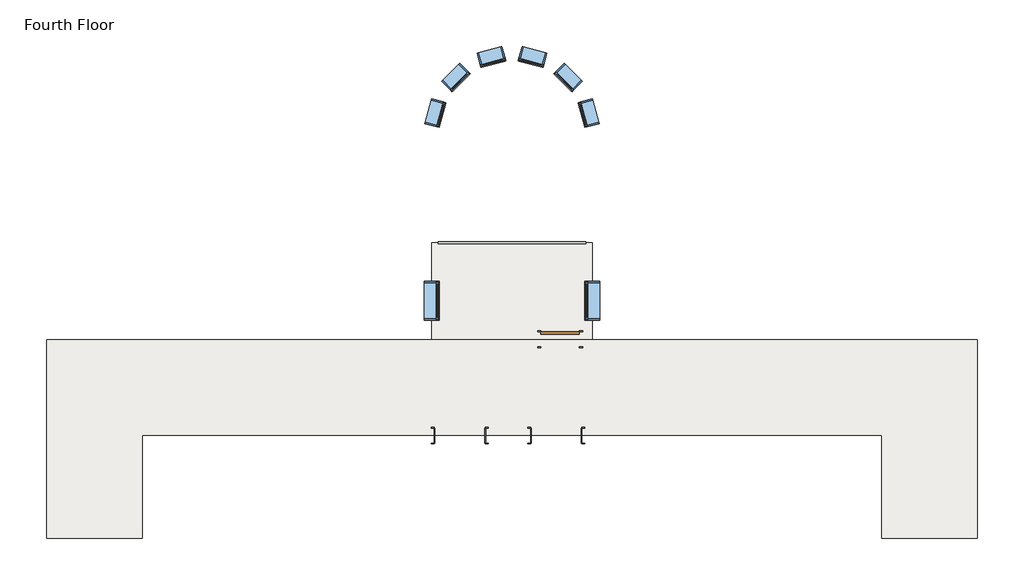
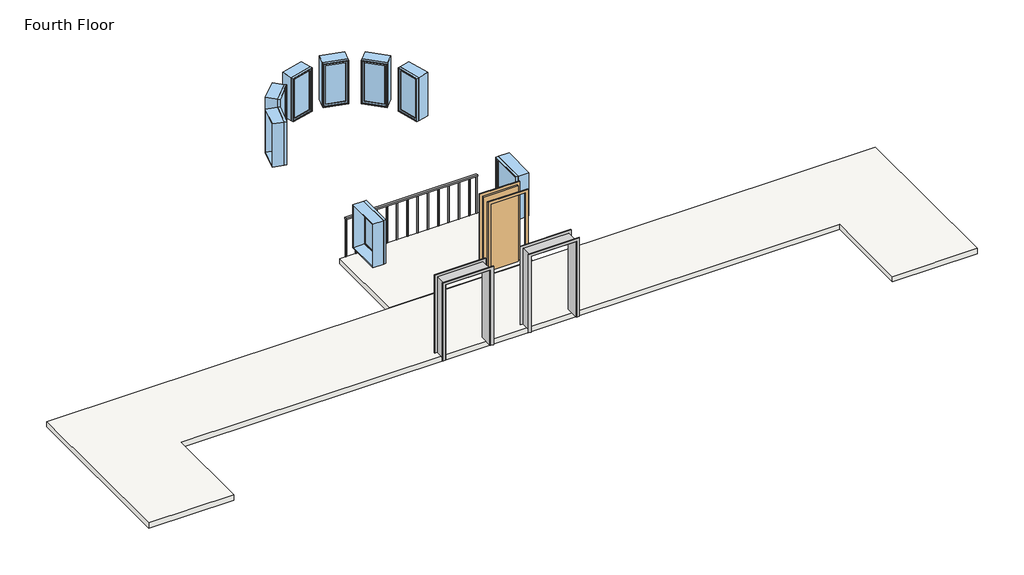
# One storey: 8 windows, 2 proxies, 2 slabs, 1 door, 1 railing.
"""IFC4 building model written with IfcOpenShell, lengths in millimetres."""

from ifc_helpers import new_model, si_unit, frame, origin, place, context, project, spatial, polyline, outline, extrude, transform, mapped, element, save
from components import m_passage_opening_cased_1220_x_2134mm_f04423fa, m_single_flush_0915_x_2134mm_1eac8bb1, m_fixed_0610_x_1220mm_2c28ef1d, m_fixed_0610_x_1220mm_1ea27827, m_fixed_0915_x_1220mm_bde29121

model = new_model("IFC4")

# Units and contexts
model_context = context("Model", 3, world=origin())
ifc_project = project(units=[si_unit("LENGTHUNIT", "METRE", prefix="MILLI")], contexts=[model_context])

# Site, building, storey
site = spatial("IfcSite", under=ifc_project)
building = spatial("IfcBuilding", under=site)
storey = spatial("IfcBuildingStorey", under=building, Name="Fourth Floor", Elevation=9144.0)

# Proxies
placement = place(None, origin())
m_passage_opening_cased_1220_x_2134mm_shape = m_passage_opening_cased_1220_x_2134mm_f04423fa(model_context)
element("IfcBuildingElementProxy", 1, Name="M_Passage Opening-Cased : 1220 x 2134mm", ObjectType="M_Passage Opening-Cased : 1220 x 2134mm", at=placement, inside=storey, context=model_context, shape_type="MappedRepresentation", body=[
    mapped(m_passage_opening_cased_1220_x_2134mm_shape, transform((3529.9038, -3050.7443399, 9144.0), x_axis=(-1.0, 0.0, 0.0), y_axis=(0.0, -1.0, 0.0), z_axis=(0.0, 0.0, 1.0))),
])
element("IfcBuildingElementProxy", 2, Name="M_Passage Opening-Cased : 1220 x 2134mm", ObjectType="M_Passage Opening-Cased : 1220 x 2134mm", at=placement, inside=storey, context=model_context, shape_type="MappedRepresentation", body=[
    mapped(m_passage_opening_cased_1220_x_2134mm_shape, transform((1260.2811134, -3050.7443399, 9144.0), x_axis=(1.0, 0.0, 0.0), y_axis=(0.0, 1.0, 0.0), z_axis=(0.0, 0.0, 1.0))),
])

# Door
m_single_flush_0915_x_2134mm_shape = m_single_flush_0915_x_2134mm_1eac8bb1(model_context)
element("IfcDoor", 3, ObjectType="M_Single-Flush : 0915 x 2134mm", at=placement, inside=storey, context=model_context, shape_type="MappedRepresentation", body=[
    mapped(m_single_flush_0915_x_2134mm_shape, transform((3632.0924567, -764.7443399, 9144.0), x_axis=(1.0, 0.0, 0.0), y_axis=(0.0, 1.0, 0.0), z_axis=(0.0, 0.0, 1.0))),
])

# Railing
element("IfcRailing", 4, ObjectType="1100mm", at=placement, inside=storey, context=model_context, shape_type="SweptSolid", body=[
    extrude(outline(polyline([(737.0924567, 1496.2556601), (737.0924567, 1546.2556601), (4241.0924567, 1546.2556601), (4241.0924567, 1496.2556601), (737.0924567, 1496.2556601)])), frame((0.0, 0.0, 10194.0), z_axis=(0.0, 0.0, 1.0), x_axis=(1.0, 0.0, 0.0)), (0.0, 0.0, 1.0), 50.0),
    extrude(outline(polyline([(4024.5924567, 1508.7556601), (4024.5924567, 1533.7556601), (4049.5924567, 1533.7556601), (4049.5924567, 1508.7556601), (4024.5924567, 1508.7556601)])), frame((0.0, 0.0, 9144.0), z_axis=(0.0, 0.0, 1.0), x_axis=(1.0, 0.0, 0.0)), (0.0, 0.0, 1.0), 1050.0),
    extrude(outline(polyline([(3749.5924567, 1508.7556601), (3749.5924567, 1533.7556601), (3774.5924567, 1533.7556601), (3774.5924567, 1508.7556601), (3749.5924567, 1508.7556601)])), frame((0.0, 0.0, 9144.0), z_axis=(0.0, 0.0, 1.0), x_axis=(1.0, 0.0, 0.0)), (0.0, 0.0, 1.0), 1050.0),
    extrude(outline(polyline([(3474.5924567, 1508.7556601), (3474.5924567, 1533.7556601), (3499.5924567, 1533.7556601), (3499.5924567, 1508.7556601), (3474.5924567, 1508.7556601)])), frame((0.0, 0.0, 9144.0), z_axis=(0.0, 0.0, 1.0), x_axis=(1.0, 0.0, 0.0)), (0.0, 0.0, 1.0), 1050.0),
    extrude(outline(polyline([(3199.5924567, 1508.7556601), (3199.5924567, 1533.7556601), (3224.5924567, 1533.7556601), (3224.5924567, 1508.7556601), (3199.5924567, 1508.7556601)])), frame((0.0, 0.0, 9144.0), z_axis=(0.0, 0.0, 1.0), x_axis=(1.0, 0.0, 0.0)), (0.0, 0.0, 1.0), 1050.0),
    extrude(outline(polyline([(2924.5924567, 1508.7556601), (2924.5924567, 1533.7556601), (2949.5924567, 1533.7556601), (2949.5924567, 1508.7556601), (2924.5924567, 1508.7556601)])), frame((0.0, 0.0, 9144.0), z_axis=(0.0, 0.0, 1.0), x_axis=(1.0, 0.0, 0.0)), (0.0, 0.0, 1.0), 1050.0),
    extrude(outline(polyline([(2649.5924567, 1508.7556601), (2649.5924567, 1533.7556601), (2674.5924567, 1533.7556601), (2674.5924567, 1508.7556601), (2649.5924567, 1508.7556601)])), frame((0.0, 0.0, 9144.0), z_axis=(0.0, 0.0, 1.0), x_axis=(1.0, 0.0, 0.0)), (0.0, 0.0, 1.0), 1050.0),
    extrude(outline(polyline([(2374.5924567, 1508.7556601), (2374.5924567, 1533.7556601), (2399.5924567, 1533.7556601), (2399.5924567, 1508.7556601), (2374.5924567, 1508.7556601)])), frame((0.0, 0.0, 9144.0), z_axis=(0.0, 0.0, 1.0), x_axis=(1.0, 0.0, 0.0)), (0.0, 0.0, 1.0), 1050.0),
    extrude(outline(polyline([(2099.5924567, 1508.7556601), (2099.5924567, 1533.7556601), (2124.5924567, 1533.7556601), (2124.5924567, 1508.7556601), (2099.5924567, 1508.7556601)])), frame((0.0, 0.0, 9144.0), z_axis=(0.0, 0.0, 1.0), x_axis=(1.0, 0.0, 0.0)), (0.0, 0.0, 1.0), 1050.0),
    extrude(outline(polyline([(1824.5924567, 1508.7556601), (1824.5924567, 1533.7556601), (1849.5924567, 1533.7556601), (1849.5924567, 1508.7556601), (1824.5924567, 1508.7556601)])), frame((0.0, 0.0, 9144.0), z_axis=(0.0, 0.0, 1.0), x_axis=(1.0, 0.0, 0.0)), (0.0, 0.0, 1.0), 1050.0),
    extrude(outline(polyline([(1549.5924567, 1508.7556601), (1549.5924567, 1533.7556601), (1574.5924567, 1533.7556601), (1574.5924567, 1508.7556601), (1549.5924567, 1508.7556601)])), frame((0.0, 0.0, 9144.0), z_axis=(0.0, 0.0, 1.0), x_axis=(1.0, 0.0, 0.0)), (0.0, 0.0, 1.0), 1050.0),
    extrude(outline(polyline([(1274.5924567, 1508.7556601), (1274.5924567, 1533.7556601), (1299.5924567, 1533.7556601), (1299.5924567, 1508.7556601), (1274.5924567, 1508.7556601)])), frame((0.0, 0.0, 9144.0), z_axis=(0.0, 0.0, 1.0), x_axis=(1.0, 0.0, 0.0)), (0.0, 0.0, 1.0), 1050.0),
    extrude(outline(polyline([(999.5924567, 1508.7556601), (999.5924567, 1533.7556601), (1024.5924567, 1533.7556601), (1024.5924567, 1508.7556601), (999.5924567, 1508.7556601)])), frame((0.0, 0.0, 9144.0), z_axis=(0.0, 0.0, 1.0), x_axis=(1.0, 0.0, 0.0)), (0.0, 0.0, 1.0), 1050.0),
    extrude(outline(polyline([(4216.0924567, 1508.7556601), (4216.0924567, 1533.7556601), (4241.0924567, 1533.7556601), (4241.0924567, 1508.7556601), (4216.0924567, 1508.7556601)])), frame((0.0, 0.0, 9144.0), z_axis=(0.0, 0.0, 1.0), x_axis=(1.0, 0.0, 0.0)), (0.0, 0.0, 1.0), 1050.0),
    extrude(outline(polyline([(737.0924567, 1508.7556601), (737.0924567, 1533.7556601), (762.0924567, 1533.7556601), (762.0924567, 1508.7556601), (737.0924567, 1508.7556601)])), frame((0.0, 0.0, 9144.0), z_axis=(0.0, 0.0, 1.0), x_axis=(1.0, 0.0, 0.0)), (0.0, 0.0, 1.0), 1050.0),
])

# Slabs
element("IfcSlab", 5, ObjectType="Generic 150mm", at=placement, inside=storey, context=model_context, shape_type="SweptSolid", body=[
    extrude(outline(polyline([(13528.0924567, -774.7443399), (13528.0924567, -5479.1443399), (11262.0924567, -5479.1443399), (11262.0924567, -3040.7443399), (-6283.9075433, -3040.7443399), (-6283.9075433, -5479.1443399), (-8549.9075433, -5479.1443399), (-8549.9075433, -774.7443399), (13528.0924567, -774.7443399)])), frame((0.0, 0.0, 8994.0), z_axis=(0.0, 0.0, 1.0), x_axis=(1.0, 0.0, 0.0)), (0.0, 0.0, 1.0), 150.0),
])
element("IfcSlab", 6, ObjectType="Generic 150mm", at=placement, inside=storey, context=model_context, shape_type="SweptSolid", body=[
    extrude(outline(polyline([(4394.0924567, -764.7443399), (584.0924567, -764.7443399), (584.0924567, 1521.2556601), (4394.0924567, 1521.2556601), (4394.0924567, -764.7443399)])), frame((0.0, 0.0, 8994.0), z_axis=(0.0, 0.0, 1.0), x_axis=(1.0, 0.0, 0.0)), (0.0, 0.0, 1.0), 150.0),
])

# Windows
m_fixed_0610_x_1220mm_shape = m_fixed_0610_x_1220mm_2c28ef1d(model_context)
element("IfcWindow", 7, ObjectType="M_Fixed : 0610 x 1220mm", at=placement, inside=storey, context=model_context, shape_type="MappedRepresentation", body=[
    mapped(m_fixed_0610_x_1220mm_shape, transform((658.1639152, 4602.8514842, 9144.0), x_axis=(-0.2588190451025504, -0.9659258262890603, 0.0), y_axis=(0.9659258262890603, -0.2588190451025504, 0.0), z_axis=(0.0, 0.0, 1.0))),
])
element("IfcWindow", 8, ObjectType="M_Fixed : 0610 x 1220mm", at=placement, inside=storey, context=model_context, shape_type="MappedRepresentation", body=[
    mapped(m_fixed_0610_x_1220mm_shape, transform((1998.4966326, 5943.1842016, 9144.0), x_axis=(-0.9659258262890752, -0.2588190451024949, 0.0), y_axis=(0.2588190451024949, -0.9659258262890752, 0.0), z_axis=(0.0, 0.0, 1.0))),
])
element("IfcWindow", 9, ObjectType="M_Fixed : 0610 x 1220mm", at=placement, inside=storey, context=model_context, shape_type="MappedRepresentation", body=[
    mapped(m_fixed_0610_x_1220mm_shape, transform((1148.7597393, 5452.5883775, 9144.0), x_axis=(-0.707106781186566, -0.7071067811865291, 0.0), y_axis=(0.7071067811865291, -0.707106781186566, 0.0), z_axis=(0.0, 0.0, 1.0))),
])
m_fixed_0610_x_1220mm_2_shape = m_fixed_0610_x_1220mm_1ea27827(model_context)
element("IfcWindow", 10, ObjectType="M_Fixed : 0610 x 1220mm", at=placement, inside=storey, context=model_context, shape_type="MappedRepresentation", body=[
    mapped(m_fixed_0610_x_1220mm_2_shape, transform((4320.0209983, 4602.8514842, 9144.0), x_axis=(0.2588190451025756, -0.9659258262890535, 0.0), y_axis=(0.9659258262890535, 0.2588190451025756, 0.0), z_axis=(0.0, 0.0, 1.0))),
])
element("IfcWindow", 11, ObjectType="M_Fixed : 0610 x 1220mm", at=placement, inside=storey, context=model_context, shape_type="MappedRepresentation", body=[
    mapped(m_fixed_0610_x_1220mm_2_shape, transform((2979.6882808, 5943.1842016, 9144.0), x_axis=(0.9659258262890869, -0.2588190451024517, 0.0), y_axis=(0.2588190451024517, 0.9659258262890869, 0.0), z_axis=(0.0, 0.0, 1.0))),
])
element("IfcWindow", 12, ObjectType="M_Fixed : 0610 x 1220mm", at=placement, inside=storey, context=model_context, shape_type="MappedRepresentation", body=[
    mapped(m_fixed_0610_x_1220mm_2_shape, transform((3829.4251742, 5452.5883775, 9144.0), x_axis=(0.7071067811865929, -0.7071067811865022, 0.0), y_axis=(0.7071067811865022, 0.7071067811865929, 0.0), z_axis=(0.0, 0.0, 1.0))),
])
m_fixed_0915_x_1220mm_shape = m_fixed_0915_x_1220mm_bde29121(model_context)
element("IfcWindow", 13, ObjectType="M_Fixed : 0915 x 1220mm", at=placement, inside=storey, context=model_context, shape_type="MappedRepresentation", body=[
    mapped(m_fixed_0915_x_1220mm_shape, transform((571.0924567, 150.2556601, 9144.0), x_axis=(0.0, -1.0, 0.0), y_axis=(1.0, 0.0, 0.0), z_axis=(0.0, 0.0, 1.0))),
])
element("IfcWindow", 14, ObjectType="M_Fixed : 0915 x 1220mm", at=placement, inside=storey, context=model_context, shape_type="MappedRepresentation", body=[
    mapped(m_fixed_0915_x_1220mm_shape, transform((4407.0924567, 150.2556601, 9144.0), x_axis=(0.0, 1.0, 0.0), y_axis=(-1.0, 0.0, 0.0), z_axis=(0.0, 0.0, 1.0))),
])

save(model, "model.ifc")
